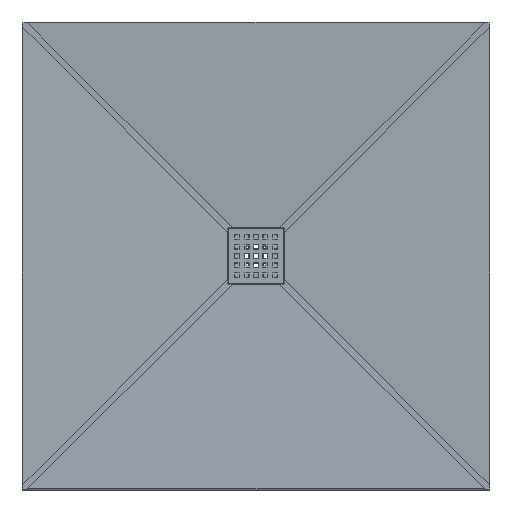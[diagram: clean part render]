
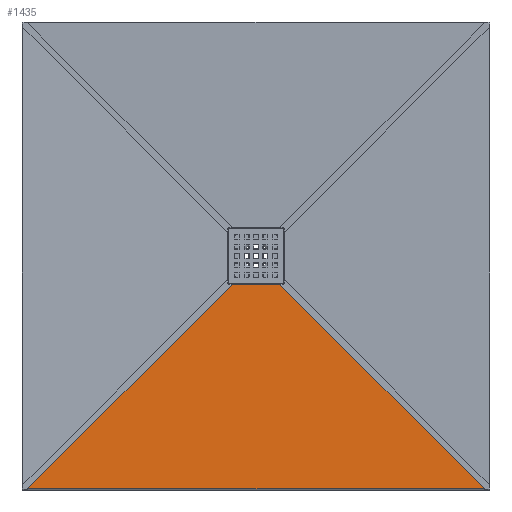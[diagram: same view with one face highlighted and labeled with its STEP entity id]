
A CAD part, top view. The second image highlights one B-rep face of the part: STEP entity #1435.
In plain terms, the highlighted free-form (B-spline) face has degree [1, 1] with [2, 2] control points.
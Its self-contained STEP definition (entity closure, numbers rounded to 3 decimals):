
#548 = ORIENTED_EDGE ( 'NONE', *, *, #11698, .T. ) ;
#619 = CARTESIAN_POINT ( 'NONE',  ( 99.359, -109.58, -13.31 ) ) ;
#811 = CARTESIAN_POINT ( 'NONE',  ( 149.161, -159.382, -11.612 ) ) ;
#1435 = ADVANCED_FACE ( 'NONE', ( #13780 ), #10934, .T. ) ;
#1637 = EDGE_LOOP ( 'NONE', ( #14196, #30464, #548, #37352 ) ) ;
#2286 = CARTESIAN_POINT ( 'NONE',  ( -429.289, -439.51, -2.062 ) ) ;
#2656 = CARTESIAN_POINT ( 'NONE',  ( -111.393, -121.614, -12.9 ) ) ;
#2840 = CARTESIAN_POINT ( 'NONE',  ( -286.627, -296.848, -6.926 ) ) ;
#4016 = CARTESIAN_POINT ( 'NONE',  ( 81.308, -91.529, -13.925 ) ) ;
#4128 = CARTESIAN_POINT ( 'NONE',  ( 487.711, -497.932, -0.071 ) ) ;
#4395 = CARTESIAN_POINT ( 'NONE',  ( 468.269, -478.49, -0.733 ) ) ;
#4795 = CARTESIAN_POINT ( 'NONE',  ( 487.711, -497.933, -0.07 ) ) ;
#4955 = CARTESIAN_POINT ( 'NONE',  ( -50.745, -60.966, -14.967 ) ) ;
#4960 = CARTESIAN_POINT ( 'NONE',  ( 50.745, -60.966, -14.967 ) ) ;
#5706 = CARTESIAN_POINT ( 'NONE',  ( -380.984, -391.205, -3.709 ) ) ;
#6709 = VERTEX_POINT ( 'NONE', #10649 ) ;
#7300 = CARTESIAN_POINT ( 'NONE',  ( 260.135, -270.357, -7.829 ) ) ;
#7676 = CARTESIAN_POINT ( 'NONE',  ( 38.395, -60.966, -14.967 ) ) ;
#7859 = CARTESIAN_POINT ( 'NONE',  ( 4.565, -60.966, -14.967 ) ) ;
#8785 = CARTESIAN_POINT ( 'NONE',  ( -135.966, -146.188, -12.062 ) ) ;
#9537 = B_SPLINE_CURVE_WITH_KNOTS ( 'NONE', 3,
 ( #37060, #34941, #2286, #5706, #13926, #25960, #2840, #14494, #34553, #34362, #37640, #25566, #31476, #8785, #31296, #2656, #16977, #25760, #31856, #28455, #37451, #17547, #17170, #11454 ),
 .UNSPECIFIED., .F., .F.,
 ( 4, 1, 1, 1, 1, 1, 1, 1, 1, 1, 1, 1, 1, 1, 1, 1, 1, 1, 1, 1, 1, 4 ),
 ( 2.926, 85.432, 168.352, 207.927, 250.329, 280.011, 331.811, 362.756, 393.701, 427.224, 458.169, 481.378, 505.993, 514.164, 538.678, 552.978, 565.235, 579.535, 588.728, 597.921, 609.156, 621.068 ),
 .UNSPECIFIED. ) ;
#9782 = CARTESIAN_POINT ( 'NONE',  ( 188.381, -198.602, -10.275 ) ) ;
#9968 = CARTESIAN_POINT ( 'NONE',  ( 380.984, -391.205, -3.709 ) ) ;
#10045 = CARTESIAN_POINT ( 'NONE',  ( -60.077, -497.932, -0.071 ) ) ;
#10160 = CARTESIAN_POINT ( 'NONE',  ( 429.289, -439.51, -2.062 ) ) ;
#10234 = CARTESIAN_POINT ( 'NONE',  ( -385.218, -497.932, -0.071 ) ) ;
#10649 = CARTESIAN_POINT ( 'NONE',  ( -487.711, -497.932, -0.071 ) ) ;
#10934 = B_SPLINE_SURFACE_WITH_KNOTS ( 'NONE', 1, 1, ( 
 ( #25422, #28320 ),
 ( #4795, #30587 ) ),
 .UNSPECIFIED., .F., .F., .F.,
 ( 2, 2 ),
 ( 2, 2 ),
 ( 0., 979.472 ),
 ( 0., 1. ),
 .UNSPECIFIED. ) ;
#11454 = CARTESIAN_POINT ( 'NONE',  ( -50.745, -60.966, -14.967 ) ) ;
#11698 = EDGE_CURVE ( 'NONE', #27865, #29216, #34847, .T. ) ;
#13780 = FACE_OUTER_BOUND ( 'NONE', #1637, .T. ) ;
#13926 = CARTESIAN_POINT ( 'NONE',  ( -342.128, -352.35, -5.034 ) ) ;
#14196 = ORIENTED_EDGE ( 'NONE', *, *, #21540, .F. ) ;
#14494 = CARTESIAN_POINT ( 'NONE',  ( -260.135, -270.357, -7.829 ) ) ;
#15504 = CARTESIAN_POINT ( 'NONE',  ( 233.346, -243.568, -8.742 ) ) ;
#15580 = CARTESIAN_POINT ( 'NONE',  ( 487.711, -497.932, -0.071 ) ) ;
#15687 = CARTESIAN_POINT ( 'NONE',  ( 50.745, -60.966, -14.967 ) ) ;
#16977 = CARTESIAN_POINT ( 'NONE',  ( -99.359, -109.58, -13.31 ) ) ;
#17001 = CARTESIAN_POINT ( 'NONE',  ( 50.745, -60.966, -14.967 ) ) ;
#17170 = CARTESIAN_POINT ( 'NONE',  ( -53.551, -63.773, -14.871 ) ) ;
#17547 = CARTESIAN_POINT ( 'NONE',  ( -59.006, -69.227, -14.685 ) ) ;
#17730 = VERTEX_POINT ( 'NONE', #35967 ) ;
#18550 = CARTESIAN_POINT ( 'NONE',  ( 135.966, -146.188, -12.062 ) ) ;
#19306 = CARTESIAN_POINT ( 'NONE',  ( -29.265, -60.966, -14.967 ) ) ;
#21420 = CARTESIAN_POINT ( 'NONE',  ( 59.006, -69.227, -14.685 ) ) ;
#21540 = EDGE_CURVE ( 'NONE', #6709, #17730, #9537, .T. ) ;
#21603 = CARTESIAN_POINT ( 'NONE',  ( 53.551, -63.773, -14.871 ) ) ;
#21745 = EDGE_CURVE ( 'NONE', #29216, #17730, #31828, .T. ) ;
#23883 = CARTESIAN_POINT ( 'NONE',  ( 66.626, -76.848, -14.426 ) ) ;
#24918 = CARTESIAN_POINT ( 'NONE',  ( 265.063, -497.932, -0.071 ) ) ;
#25422 = CARTESIAN_POINT ( 'NONE',  ( -487.711, -497.933, -0.07 ) ) ;
#25566 = CARTESIAN_POINT ( 'NONE',  ( -167.721, -177.943, -10.979 ) ) ;
#25760 = CARTESIAN_POINT ( 'NONE',  ( -89.732, -99.953, -13.638 ) ) ;
#25960 = CARTESIAN_POINT ( 'NONE',  ( -315.818, -326.039, -5.93 ) ) ;
#27150 = CARTESIAN_POINT ( 'NONE',  ( 487.711, -497.932, -0.071 ) ) ;
#27865 = VERTEX_POINT ( 'NONE', #4128 ) ;
#28320 = CARTESIAN_POINT ( 'NONE',  ( -59.713, -60.965, -14.967 ) ) ;
#28455 = CARTESIAN_POINT ( 'NONE',  ( -73.606, -83.827, -14.188 ) ) ;
#29216 = VERTEX_POINT ( 'NONE', #4960 ) ;
#30010 = CARTESIAN_POINT ( 'NONE',  ( 342.128, -352.35, -5.034 ) ) ;
#30188 = CARTESIAN_POINT ( 'NONE',  ( 122.464, -132.686, -12.522 ) ) ;
#30378 = CARTESIAN_POINT ( 'NONE',  ( 73.606, -83.827, -14.188 ) ) ;
#30464 = ORIENTED_EDGE ( 'NONE', *, *, #32990, .T. ) ;
#30562 = CARTESIAN_POINT ( 'NONE',  ( 111.393, -121.614, -12.9 ) ) ;
#30587 = CARTESIAN_POINT ( 'NONE',  ( 59.713, -60.965, -14.967 ) ) ;
#31296 = CARTESIAN_POINT ( 'NONE',  ( -122.464, -132.686, -12.522 ) ) ;
#31476 = CARTESIAN_POINT ( 'NONE',  ( -149.161, -159.382, -11.612 ) ) ;
#31828 = B_SPLINE_CURVE_WITH_KNOTS ( 'NONE', 3,
 ( #17001, #7676, #7859, #19306, #4955 ),
 .UNSPECIFIED., .F., .F.,
 ( 4, 1, 4 ),
 ( 0., 37.05, 101.489 ),
 .UNSPECIFIED. ) ;
#31856 = CARTESIAN_POINT ( 'NONE',  ( -81.308, -91.529, -13.925 ) ) ;
#32679 = CARTESIAN_POINT ( 'NONE',  ( 315.818, -326.039, -5.93 ) ) ;
#32990 = EDGE_CURVE ( 'NONE', #6709, #27865, #33146, .T. ) ;
#33146 = B_SPLINE_CURVE_WITH_KNOTS ( 'NONE', 3,
 ( #36412, #10234, #10045, #24918, #15580 ),
 .UNSPECIFIED., .F., .F.,
 ( 4, 1, 4 ),
 ( 0., 307.478, 975.421 ),
 .UNSPECIFIED. ) ;
#33427 = CARTESIAN_POINT ( 'NONE',  ( 286.627, -296.848, -6.926 ) ) ;
#34362 = CARTESIAN_POINT ( 'NONE',  ( -210.864, -221.085, -9.508 ) ) ;
#34553 = CARTESIAN_POINT ( 'NONE',  ( -233.346, -243.568, -8.742 ) ) ;
#34847 = B_SPLINE_CURVE_WITH_KNOTS ( 'NONE', 3,
 ( #27150, #4395, #10160, #9968, #30010, #32679, #33427, #7300, #15504, #35972, #9782, #36155, #811, #18550, #30188, #30562, #619, #35587, #4016, #30378, #23883, #21420, #21603, #15687 ),
 .UNSPECIFIED., .F., .F.,
 ( 4, 1, 1, 1, 1, 1, 1, 1, 1, 1, 1, 1, 1, 1, 1, 1, 1, 1, 1, 1, 1, 4 ),
 ( 2.926, 85.432, 168.352, 207.927, 250.329, 280.011, 331.811, 362.756, 393.701, 427.224, 458.169, 481.378, 505.993, 514.164, 538.678, 552.978, 565.235, 579.535, 588.728, 597.921, 609.156, 621.068 ),
 .UNSPECIFIED. ) ;
#34941 = CARTESIAN_POINT ( 'NONE',  ( -468.269, -478.49, -0.733 ) ) ;
#35587 = CARTESIAN_POINT ( 'NONE',  ( 89.732, -99.953, -13.638 ) ) ;
#35967 = CARTESIAN_POINT ( 'NONE',  ( -50.745, -60.966, -14.967 ) ) ;
#35972 = CARTESIAN_POINT ( 'NONE',  ( 210.864, -221.085, -9.508 ) ) ;
#36155 = CARTESIAN_POINT ( 'NONE',  ( 167.721, -177.943, -10.979 ) ) ;
#36412 = CARTESIAN_POINT ( 'NONE',  ( -487.711, -497.932, -0.071 ) ) ;
#37060 = CARTESIAN_POINT ( 'NONE',  ( -487.711, -497.932, -0.071 ) ) ;
#37352 = ORIENTED_EDGE ( 'NONE', *, *, #21745, .T. ) ;
#37451 = CARTESIAN_POINT ( 'NONE',  ( -66.626, -76.848, -14.426 ) ) ;
#37640 = CARTESIAN_POINT ( 'NONE',  ( -188.381, -198.602, -10.275 ) ) ;
